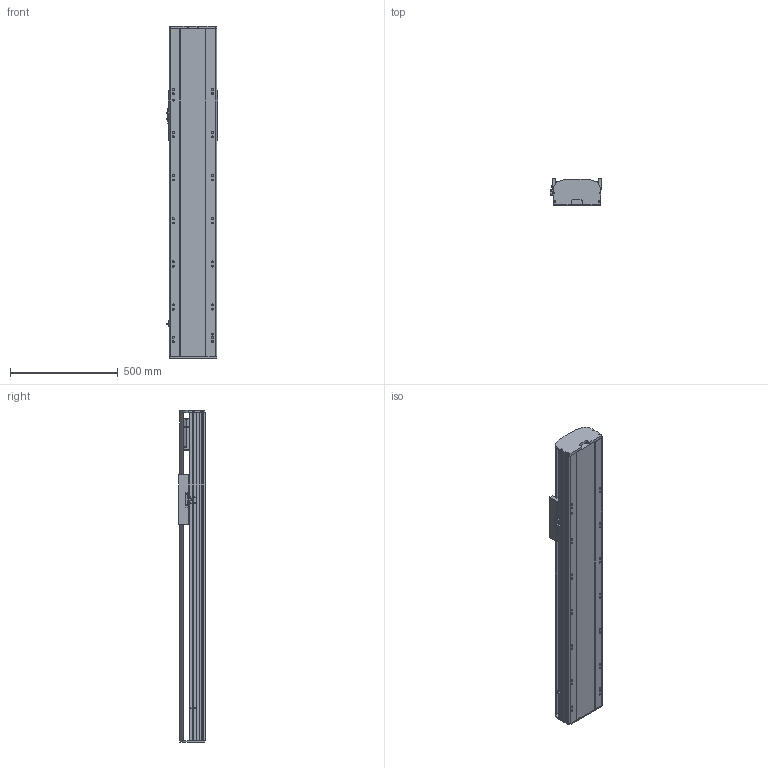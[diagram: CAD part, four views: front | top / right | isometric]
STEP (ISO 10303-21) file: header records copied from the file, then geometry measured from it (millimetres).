
FILE_DESCRIPTION (( 'STEP AP214' ), '1' );
FILE_NAME ('RTH22-XX-950-B-M75-C4.STEP', '2025-10-24T10:32:04', ( 'Microsoft' ), ( 'Microsoft' ), 'SwSTEP 2.0', 'SolidWorks 2018', '' );
FILE_SCHEMA (( 'AUTOMOTIVE_DESIGN' ));
Length unit declared in the file: millimetre
Products named in the file (9): N_RTH22-B-011菁釱^RTH22-XX-XX-B-M75-C4; N_RTH22-E-004-SFS25賑釱^RTH22-XX-XX-B-M75-C4; N_RTH22-GY-013外置感应片^RTH22-XX-XX-B-M75-C4; N_RTH22-B-008萇儂啣^RTH22-XX-XX-B-M75-C4; RTH22-XX-950-B-M75-C4; N_RTH22-B-007奻裔^RTH22-XX-XX-B-M75-C4; N_OMRON EE-SX672 传感器^RTH22-XX-XX-B-M75-C4; N_750W萇儂^RTH22-XX-XX-B-M75-C4; N_RTH22-GY-001耜裔^RTH22-XX-XX-B-M75-C4
Assembly tree (10 placements, depth 2):
  RTH22-XX-950-B-M75-C4
    N_RTH22-B-011菁釱^RTH22-XX-XX-B-M75-C4
    N_RTH22-GY-001耜裔^RTH22-XX-XX-B-M75-C4
    N_750W萇儂^RTH22-XX-XX-B-M75-C4
    N_RTH22-B-008萇儂啣^RTH22-XX-XX-B-M75-C4
    N_RTH22-B-007奻裔^RTH22-XX-XX-B-M75-C4
    N_OMRON EE-SX672 传感器^RTH22-XX-XX-B-M75-C4  x3
    N_RTH22-GY-013外置感应片^RTH22-XX-XX-B-M75-C4
    N_RTH22-E-004-SFS25賑釱^RTH22-XX-XX-B-M75-C4
Bounding box: 238.5 x 122 x 1540 mm (x, y, z)
Volume: 20899834.9 mm3; surface area: 2155309.5 mm2
Topology: 10 solids, 10 shells, 1533 faces, 4200 edges, 2713 vertices
Faces by surface type: plane 754, cylinder 442, bspline 279, cone 58
Entity records: 38091 total; most frequent: CARTESIAN_POINT 11845, ORIENTED_EDGE 5376, DIRECTION 5046, EDGE_CURVE 2688, VERTEX_POINT 1749, AXIS2_PLACEMENT_3D 1698, VECTOR 1650, LINE 1650
